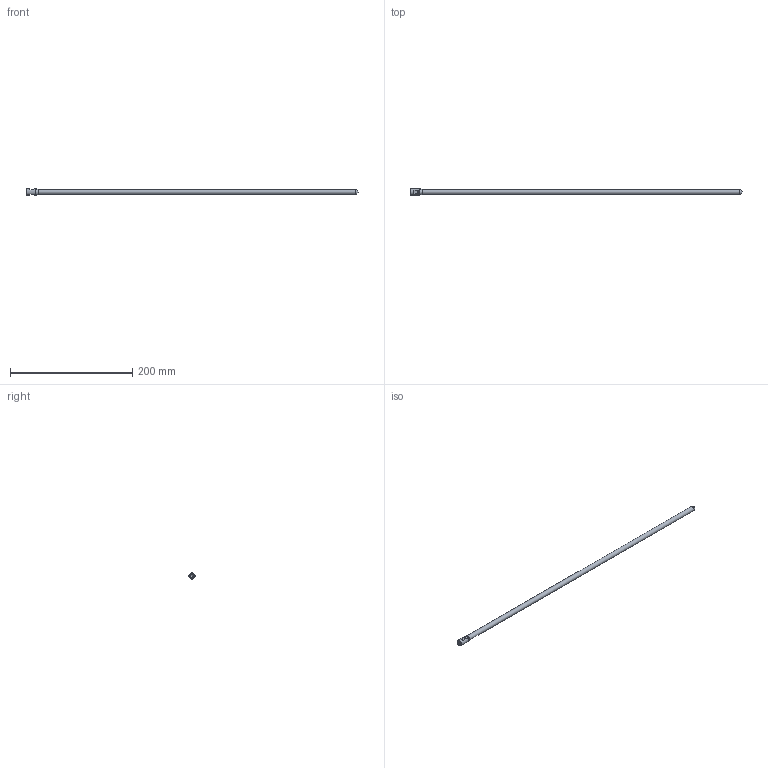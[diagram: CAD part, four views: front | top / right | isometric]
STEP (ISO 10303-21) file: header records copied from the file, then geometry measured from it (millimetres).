
FILE_DESCRIPTION(/* description */ ('STEP AP203'),/* implementation_level */ '2;1');
FILE_NAME(/* name */ 'E43424',/* time_stamp */ '2022-12-14T12:54:34+01:00',/* author */ ('License CC BY-ND 4.0'),/* organization */ ('CADENAS'),/* preprocessor_version */ 'ST-DEVELOPER v18.102',/* originating_system */ 'PARTsolutions',/* authorisation */ ' ');
FILE_SCHEMA (('CONFIG_CONTROL_DESIGN'));
Length unit declared in the file: millimetre
Products named in the file (1): E43424
Bounding box: 542.38 x 10 x 10 mm (x, y, z)
Volume: 27383.5 mm3; surface area: 14023.6 mm2
Topology: 1 solids, 1 shells, 21 faces, 44 edges, 26 vertices
Faces by surface type: cylinder 8, cone 4, torus 4, plane 3, sphere 2
Full cylindrical faces by diameter (mm): 4.917 x1, 7.12 x1, 8 x1, 10 x1
Entity records: 520 total; most frequent: CARTESIAN_POINT 119, DIRECTION 80, ORIENTED_EDGE 52, FACE_BOUND 37, EDGE_LOOP 36, AXIS2_PLACEMENT_3D 36, EDGE_CURVE 26, VERTEX_POINT 23
